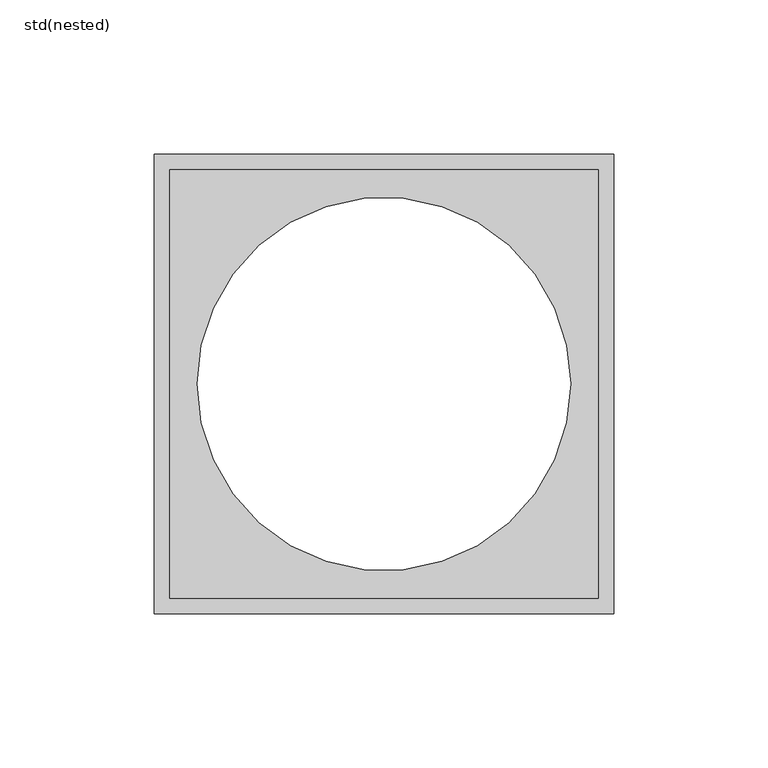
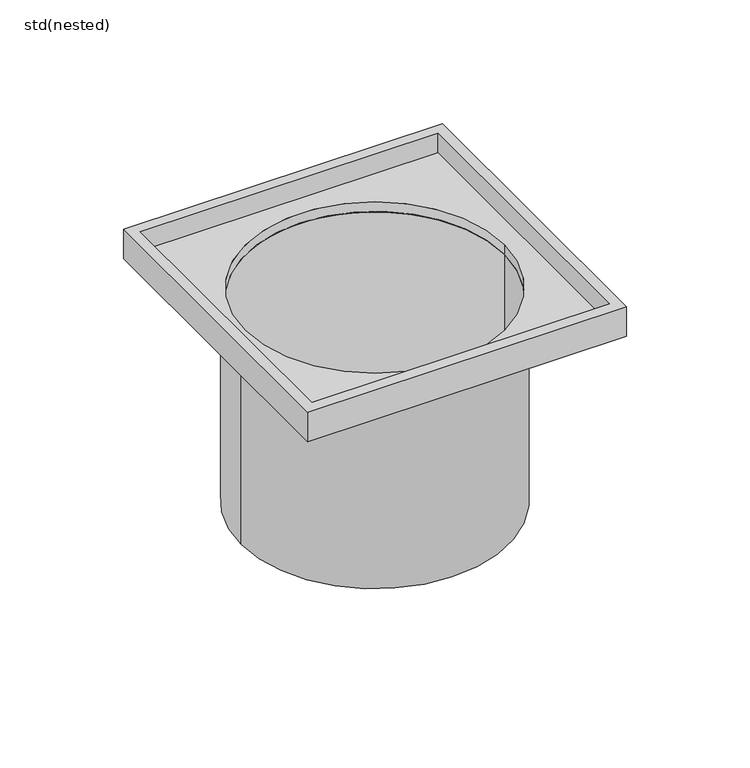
"""IFC4 building model written with IfcOpenShell, lengths in millimetres: sanitary terminal geometry, ZZZ_do_not_use_PF_UN_top section without grating_ACO : std(nested)."""

from ifc_helpers import new_model, si_unit, point, frame, origin, origin_2d, place, context, project, spatial, polyline, circle_curve, trimmed, segment, composite_curve, outline, extrude, source, transform, mapped, element, save


def std_nested_d89320c1(model_context):
    return source(origin(), model_context, "Body", "SweptSolid", [
        extrude(outline(composite_curve([segment(trimmed(circle_curve(origin_2d(), 62.5), [point((-62.5, 0.0))], [point((62.5, 0.0))], False, "CARTESIAN"), True, "CONTINUOUS"), segment(trimmed(circle_curve(origin_2d(), 62.5), [point((62.5, 0.0))], [point((-62.5, 0.0))], False, "CARTESIAN"), True, "CONTINUOUS")], self_intersect=False), holes=[composite_curve([segment(trimmed(circle_curve(origin_2d(), 60.5), [point((-60.5, 0.0))], [point((60.5, 0.0))], True, "CARTESIAN"), True, "CONTINUOUS"), segment(trimmed(circle_curve(origin_2d(), 60.5), [point((60.5, 0.0))], [point((-60.5, 0.0))], True, "CARTESIAN"), True, "CONTINUOUS")], self_intersect=False)]), frame((0.0, 0.0, -114.6892984), z_axis=(0.0, 0.0, 1.0), x_axis=(1.0, 0.0, 0.0)), (0.0, 0.0, 1.0), 100.0),
        extrude(outline(polyline([(69.5, 69.5), (69.5, -69.5), (-69.5, -69.5), (-69.5, 69.5), (69.5, 69.5)]), holes=[composite_curve([segment(trimmed(circle_curve(origin_2d(), 60.5), [point((-60.5, 0.0))], [point((60.5, 0.0))], True, "CARTESIAN"), True, "CONTINUOUS"), segment(trimmed(circle_curve(origin_2d(), 60.5), [point((60.5, 0.0))], [point((-60.5, 0.0))], True, "CARTESIAN"), True, "CONTINUOUS")], self_intersect=False)]), frame((0.0, 0.0, -14.6892984), z_axis=(0.0, 0.0, 1.0), x_axis=(1.0, 0.0, 0.0)), (0.0, 0.0, 1.0), 5.0),
        extrude(outline(polyline([(74.5, 74.5), (74.5, -74.5), (-74.5, -74.5), (-74.5, 74.5), (74.5, 74.5)]), holes=[polyline([(69.5, 69.5), (-69.5, 69.5), (-69.5, -69.5), (69.5, -69.5), (69.5, 69.5)])]), frame((0.0, 0.0, -14.6892984), z_axis=(0.0, 0.0, 1.0), x_axis=(1.0, 0.0, 0.0)), (0.0, 0.0, 1.0), 14.6892984),
    ])


if __name__ == "__main__":
    model = new_model("IFC4")
    model_context = context("Model", 3, world=origin())
    ifc_project = project(units=[si_unit("LENGTHUNIT", "METRE", prefix="MILLI")], contexts=[model_context])
    site = spatial("IfcSite", under=ifc_project)
    building = spatial("IfcBuilding", under=site)
    placement = place(None, origin())
    std_nested_shape = std_nested_d89320c1(model_context)
    element("IfcSanitaryTerminal", 1, ObjectType="ZZZ_do_not_use_PF_UN_top section without grating_ACO : std(nested)", at=placement, inside=building, context=model_context, shape_type="MappedRepresentation", body=[
        mapped(std_nested_shape, transform((0.0, 0.0, 0.0), x_axis=(1.0, 0.0, 0.0), y_axis=(0.0, 1.0, 0.0), z_axis=(0.0, 0.0, 1.0))),
    ])
    save(model, "model.ifc")
